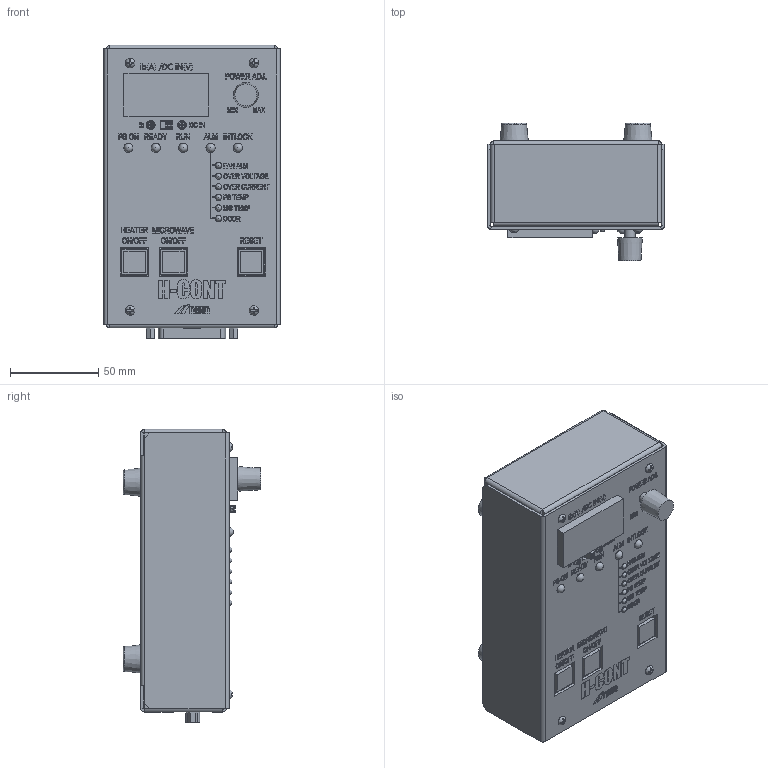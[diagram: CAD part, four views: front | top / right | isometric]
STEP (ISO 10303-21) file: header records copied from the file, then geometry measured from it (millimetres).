
FILE_DESCRIPTION(('STEP AP203'),'1');
FILE_NAME('H-CONT_Simple.stp','2026-03-30T04:49:51',(' '),(' '),'Spatial InterOp 3D',' ',' ');
FILE_SCHEMA(('CONFIG_CONTROL_DESIGN'));
Length unit declared in the file: millimetre
Products named in the file (75): H-CONT_Simple; BK43967; BK43968; シルク; パーツ59; パーツ60; パーツ61; パーツ82; パーツ84; 部品群; _~_`_____1; UB-26H1SKP1Y-DCS; パーツ10; パーツ12; UB-26H1SKP1M-BCS; UB-15SKP1N; Compound; led_004; A2110-13(自作); 1; パーツ28; パーツ32; NONE; (SWPW-ISO-S)PAN-SUS-M3X12; PAN-SUS-M3X12; SPRING-SUS-3; PLAIN-SUS-3-ISO-S; FLAT-SUS-M3X6; HEX-SUS-M2X6; TRUSS-SUS-M3X6; PLAIN-SUS-2-ISO-L; SPRING-SUS-2; ロゴ; パーツ5; パーツ6; BJ45099-017; パーツ97; パーツ1; BJ45099-007; パーツ94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
Assembly tree (98 placements, depth 4):
  H-CONT_Simple
    BK43967
    BK43968
    シルク
      パーツ59
      パーツ60
      パーツ60
      パーツ60
      パーツ60
      パーツ60
      パーツ60
      パーツ60
      パーツ60
      パーツ61
      パーツ61
      パーツ61
      パーツ61
      パーツ61
      パーツ61
      パーツ60
      パーツ60
      パーツ60
      パーツ60
      パーツ61
      パーツ61
      パーツ61
      パーツ61
      パーツ82
      パーツ84
    部品群
      _~_`_____1  x4
      _~_`_____1  x4
      UB-26H1SKP1Y-DCS
        パーツ10
        パーツ12
      UB-26H1SKP1M-BCS
        パーツ10
        パーツ12
      UB-15SKP1N
        パーツ10
        パーツ12
      Compound  x3
      Compound
      led_004  x6
      A2110-13(自作)
      1
      パーツ28
      パーツ32
      NONE  x4
      NONE
      (SWPW-ISO-S)PAN-SUS-M3X12  x4
        PAN-SUS-M3X12
        SPRING-SUS-3
        PLAIN-SUS-3-ISO-S
      FLAT-SUS-M3X6
      FLAT-SUS-M3X6
      FLAT-SUS-M3X6
      FLAT-SUS-M3X6
      HEX-SUS-M2X6
      HEX-SUS-M2X6
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Bounding box: 100 x 78 x 166.1 mm (x, y, z)
Volume: 157908 mm3; surface area: 151706.7 mm2
Topology: 235 solids, 235 shells, 6403 faces, 17291 edges, 11412 vertices
Faces by surface type: plane 5877, cylinder 414, cone 57, torus 28, sphere 15, bspline 12
Full cylindrical faces by diameter (mm): 1.15 x25, 2 x2, 2.2 x2, 2.5 x10, 2.845 x2, 3 x18, 3.2 x6, 3.6 x14, 4.2 x2, 4.22 x8, 4.3 x8, 5 x7, 5.2 x5, 5.45 x4, 6 x9, 6.2 x5, 6.4 x8
Entity records: 182214 total; most frequent: CARTESIAN_POINT 32972, ORIENTED_EDGE 30954, DIRECTION 27896, EDGE_CURVE 15477, LINE 14650, VECTOR 14650, VERTEX_POINT 10305, AXIS2_PLACEMENT_3D 6623
